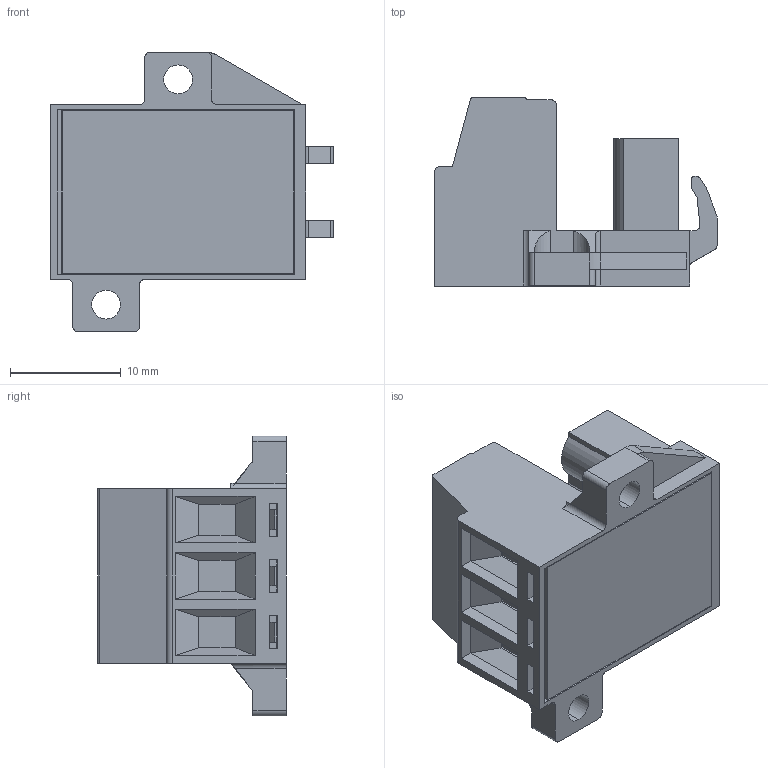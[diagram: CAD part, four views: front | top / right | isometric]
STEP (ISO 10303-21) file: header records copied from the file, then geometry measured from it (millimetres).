
FILE_DESCRIPTION((''),'2;1');
FILE_NAME('3PIN_SW0001','2019-06-03T',('zhenbing.lai'),(''),'CREO PARAMETRIC BY PTC INC, 2016260','CREO PARAMETRIC BY PTC INC, 2016260','');
FILE_SCHEMA(('CONFIG_CONTROL_DESIGN'));
Length unit declared in the file: millimetre
Products named in the file (1): 3PIN_SW0001
Bounding box: 25.5 x 17 x 25.24 mm (x, y, z)
Volume: 4096.2 mm3; surface area: 3222.1 mm2
Topology: 1 solids, 1 shells, 404 faces, 1206 edges, 807 vertices
Faces by surface type: plane 233, cylinder 144, cone 15, torus 12
Entity records: 14184 total; most frequent: CARTESIAN_POINT 3095, ORIENTED_EDGE 2412, DIRECTION 2236, EDGE_CURVE 1206, VERTEX_POINT 807, AXIS2_PLACEMENT_3D 750, VECTOR 736, LINE 736
